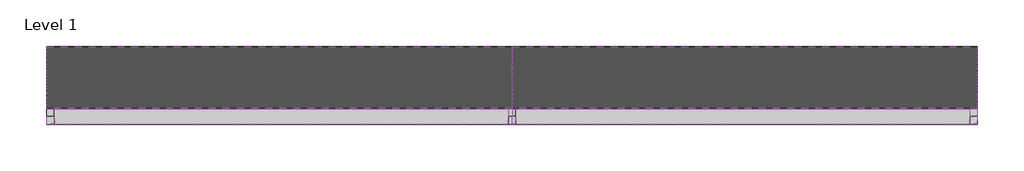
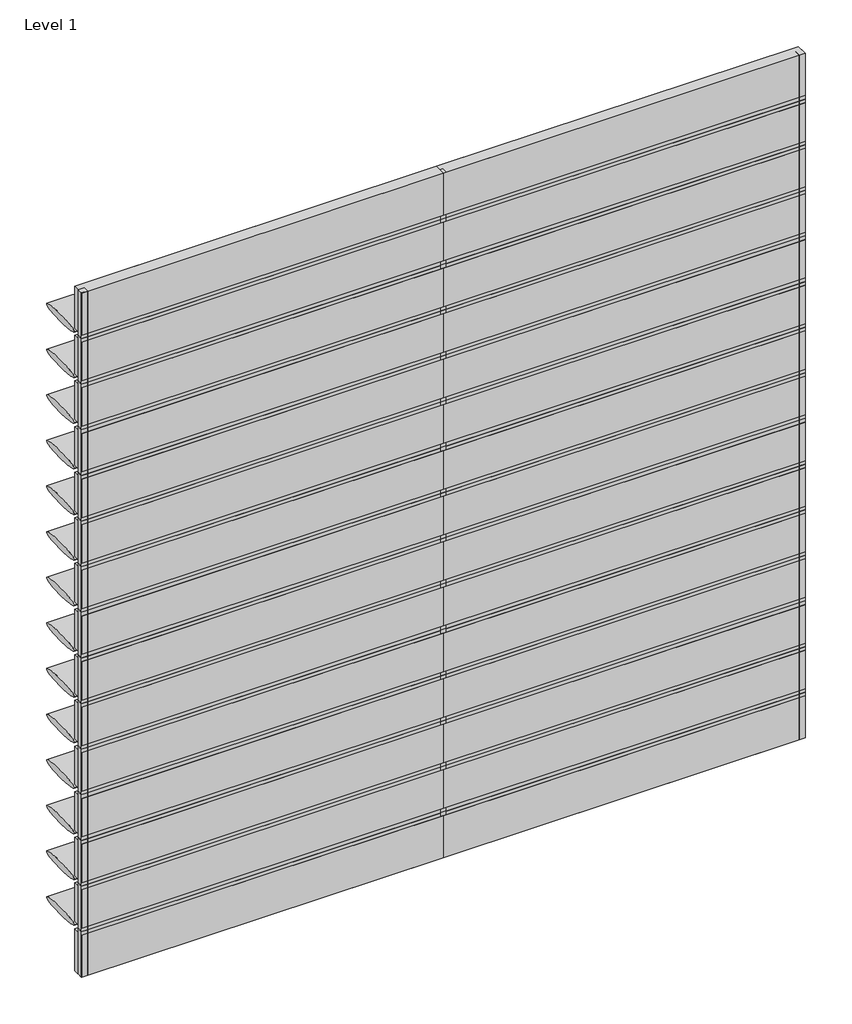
# One storey: 73 members, 60 plates.
"""IFC4 building model written with IfcOpenShell, lengths in millimetres."""

from ifc_helpers import new_model, si_unit, origin, place, context, project, spatial, transform, mapped, element, save
from components import rectangular_mullion_a010c3f5, rectangular_mullion_3c6e38bc, rectangular_mullion_05cc9e47, rectangular_mullion_4a4034a1, empty_system_panel_empty_1007a1ca, empty_system_panel_empty_1d5742cf, empty_system_panel_empty_0ce9900c

model = new_model("IFC4")

# Units and contexts
model_context = context("Model", 3, world=origin())
ifc_project = project(units=[si_unit("LENGTHUNIT", "METRE", prefix="MILLI")], contexts=[model_context])

# Site, building, storey
site = spatial("IfcSite", under=ifc_project)
building = spatial("IfcBuilding", under=site)
storey = spatial("IfcBuildingStorey", under=building, Name="Level 1", Elevation=0.0)

# Members
placement = place(None, origin())
rectangular_mullion_shape = rectangular_mullion_a010c3f5(model_context)
element("IfcMember", 1, ObjectType="Rectangular Mullion : RSen_21_CWM_blade - 400 ellips - 0°_gen_duco projects", at=placement, inside=storey, context=model_context, shape_type="MappedRepresentation", body=[
    mapped(rectangular_mullion_shape, transform((3000.0, 3000.0, 400.0), x_axis=(0.0, 0.0, 1.0), y_axis=(0.0, 1.0, 0.0), z_axis=(-1.0, 0.0, 0.0))),
])
element("IfcMember", 2, ObjectType="Rectangular Mullion : RSen_21_CWM_blade - 400 ellips - 0°_gen_duco projects", at=placement, inside=storey, context=model_context, shape_type="MappedRepresentation", body=[
    mapped(rectangular_mullion_shape, transform((3000.0, 3000.0, 800.0), x_axis=(0.0, 0.0, 1.0), y_axis=(0.0, 1.0, 0.0), z_axis=(-1.0, 0.0, 0.0))),
])
element("IfcMember", 3, ObjectType="Rectangular Mullion : RSen_21_CWM_blade - 400 ellips - 0°_gen_duco projects", at=placement, inside=storey, context=model_context, shape_type="MappedRepresentation", body=[
    mapped(rectangular_mullion_shape, transform((3000.0, 3000.0, 1200.0), x_axis=(0.0, 0.0, 1.0), y_axis=(0.0, 1.0, 0.0), z_axis=(-1.0, 0.0, 0.0))),
])
element("IfcMember", 4, ObjectType="Rectangular Mullion : RSen_21_CWM_blade - 400 ellips - 0°_gen_duco projects", at=placement, inside=storey, context=model_context, shape_type="MappedRepresentation", body=[
    mapped(rectangular_mullion_shape, transform((3000.0, 3000.0, 1600.0), x_axis=(0.0, 0.0, 1.0), y_axis=(0.0, 1.0, 0.0), z_axis=(-1.0, 0.0, 0.0))),
])
element("IfcMember", 5, ObjectType="Rectangular Mullion : RSen_21_CWM_blade - 400 ellips - 0°_gen_duco projects", at=placement, inside=storey, context=model_context, shape_type="MappedRepresentation", body=[
    mapped(rectangular_mullion_shape, transform((3000.0, 3000.0, 2000.0), x_axis=(0.0, 0.0, 1.0), y_axis=(0.0, 1.0, 0.0), z_axis=(-1.0, 0.0, 0.0))),
])
element("IfcMember", 6, ObjectType="Rectangular Mullion : RSen_21_CWM_blade - 400 ellips - 0°_gen_duco projects", at=placement, inside=storey, context=model_context, shape_type="MappedRepresentation", body=[
    mapped(rectangular_mullion_shape, transform((3000.0, 3000.0, 2400.0), x_axis=(0.0, 0.0, 1.0), y_axis=(0.0, 1.0, 0.0), z_axis=(-1.0, 0.0, 0.0))),
])
element("IfcMember", 7, ObjectType="Rectangular Mullion : RSen_21_CWM_blade - 400 ellips - 0°_gen_duco projects", at=placement, inside=storey, context=model_context, shape_type="MappedRepresentation", body=[
    mapped(rectangular_mullion_shape, transform((3000.0, 3000.0, 2800.0), x_axis=(0.0, 0.0, 1.0), y_axis=(0.0, 1.0, 0.0), z_axis=(-1.0, 0.0, 0.0))),
])
element("IfcMember", 8, ObjectType="Rectangular Mullion : RSen_21_CWM_blade - 400 ellips - 0°_gen_duco projects", at=placement, inside=storey, context=model_context, shape_type="MappedRepresentation", body=[
    mapped(rectangular_mullion_shape, transform((3000.0, 3000.0, 3200.0), x_axis=(0.0, 0.0, 1.0), y_axis=(0.0, 1.0, 0.0), z_axis=(-1.0, 0.0, 0.0))),
])
element("IfcMember", 9, ObjectType="Rectangular Mullion : RSen_21_CWM_blade - 400 ellips - 0°_gen_duco projects", at=placement, inside=storey, context=model_context, shape_type="MappedRepresentation", body=[
    mapped(rectangular_mullion_shape, transform((3000.0, 3000.0, 3600.0), x_axis=(0.0, 0.0, 1.0), y_axis=(0.0, 1.0, 0.0), z_axis=(-1.0, 0.0, 0.0))),
])
element("IfcMember", 10, ObjectType="Rectangular Mullion : RSen_21_CWM_blade - 400 ellips - 0°_gen_duco projects", at=placement, inside=storey, context=model_context, shape_type="MappedRepresentation", body=[
    mapped(rectangular_mullion_shape, transform((3000.0, 3000.0, 4000.0), x_axis=(0.0, 0.0, 1.0), y_axis=(0.0, 1.0, 0.0), z_axis=(-1.0, 0.0, 0.0))),
])
element("IfcMember", 11, ObjectType="Rectangular Mullion : RSen_21_CWM_blade - 400 ellips - 0°_gen_duco projects", at=placement, inside=storey, context=model_context, shape_type="MappedRepresentation", body=[
    mapped(rectangular_mullion_shape, transform((3000.0, 3000.0, 4400.0), x_axis=(0.0, 0.0, 1.0), y_axis=(0.0, 1.0, 0.0), z_axis=(-1.0, 0.0, 0.0))),
])
element("IfcMember", 12, ObjectType="Rectangular Mullion : RSen_21_CWM_blade - 400 ellips - 0°_gen_duco projects", at=placement, inside=storey, context=model_context, shape_type="MappedRepresentation", body=[
    mapped(rectangular_mullion_shape, transform((3000.0, 3000.0, 4800.0), x_axis=(0.0, 0.0, 1.0), y_axis=(0.0, 1.0, 0.0), z_axis=(-1.0, 0.0, 0.0))),
])
element("IfcMember", 13, ObjectType="Rectangular Mullion : RSen_21_CWM_blade - 400 ellips - 0°_gen_duco projects", at=placement, inside=storey, context=model_context, shape_type="MappedRepresentation", body=[
    mapped(rectangular_mullion_shape, transform((3000.0, 3000.0, 5200.0), x_axis=(0.0, 0.0, 1.0), y_axis=(0.0, 1.0, 0.0), z_axis=(-1.0, 0.0, 0.0))),
])
element("IfcMember", 14, ObjectType="Rectangular Mullion : RSen_21_CWM_blade - 400 ellips - 0°_gen_duco projects", at=placement, inside=storey, context=model_context, shape_type="MappedRepresentation", body=[
    mapped(rectangular_mullion_shape, transform((3000.0, 3000.0, 5600.0), x_axis=(0.0, 0.0, 1.0), y_axis=(0.0, 1.0, 0.0), z_axis=(-1.0, 0.0, 0.0))),
])
element("IfcMember", 15, ObjectType="Rectangular Mullion : RSen_21_CWM_blade - 400 ellips - 0°_gen_duco projects", at=placement, inside=storey, context=model_context, shape_type="MappedRepresentation", body=[
    mapped(rectangular_mullion_shape, transform((0.0, 3000.0, 400.0), x_axis=(0.0, 0.0, 1.0), y_axis=(0.0, 1.0, 0.0), z_axis=(-1.0, 0.0, 0.0))),
])
element("IfcMember", 16, ObjectType="Rectangular Mullion : RSen_21_CWM_blade - 400 ellips - 0°_gen_duco projects", at=placement, inside=storey, context=model_context, shape_type="MappedRepresentation", body=[
    mapped(rectangular_mullion_shape, transform((0.0, 3000.0, 800.0), x_axis=(0.0, 0.0, 1.0), y_axis=(0.0, 1.0, 0.0), z_axis=(-1.0, 0.0, 0.0))),
])
element("IfcMember", 17, ObjectType="Rectangular Mullion : RSen_21_CWM_blade - 400 ellips - 0°_gen_duco projects", at=placement, inside=storey, context=model_context, shape_type="MappedRepresentation", body=[
    mapped(rectangular_mullion_shape, transform((0.0, 3000.0, 1200.0), x_axis=(0.0, 0.0, 1.0), y_axis=(0.0, 1.0, 0.0), z_axis=(-1.0, 0.0, 0.0))),
])
element("IfcMember", 18, ObjectType="Rectangular Mullion : RSen_21_CWM_blade - 400 ellips - 0°_gen_duco projects", at=placement, inside=storey, context=model_context, shape_type="MappedRepresentation", body=[
    mapped(rectangular_mullion_shape, transform((0.0, 3000.0, 1600.0), x_axis=(0.0, 0.0, 1.0), y_axis=(0.0, 1.0, 0.0), z_axis=(-1.0, 0.0, 0.0))),
])
element("IfcMember", 19, ObjectType="Rectangular Mullion : RSen_21_CWM_blade - 400 ellips - 0°_gen_duco projects", at=placement, inside=storey, context=model_context, shape_type="MappedRepresentation", body=[
    mapped(rectangular_mullion_shape, transform((0.0, 3000.0, 2000.0), x_axis=(0.0, 0.0, 1.0), y_axis=(0.0, 1.0, 0.0), z_axis=(-1.0, 0.0, 0.0))),
])
element("IfcMember", 20, ObjectType="Rectangular Mullion : RSen_21_CWM_blade - 400 ellips - 0°_gen_duco projects", at=placement, inside=storey, context=model_context, shape_type="MappedRepresentation", body=[
    mapped(rectangular_mullion_shape, transform((0.0, 3000.0, 2400.0), x_axis=(0.0, 0.0, 1.0), y_axis=(0.0, 1.0, 0.0), z_axis=(-1.0, 0.0, 0.0))),
])
element("IfcMember", 21, ObjectType="Rectangular Mullion : RSen_21_CWM_blade - 400 ellips - 0°_gen_duco projects", at=placement, inside=storey, context=model_context, shape_type="MappedRepresentation", body=[
    mapped(rectangular_mullion_shape, transform((0.0, 3000.0, 2800.0), x_axis=(0.0, 0.0, 1.0), y_axis=(0.0, 1.0, 0.0), z_axis=(-1.0, 0.0, 0.0))),
])
element("IfcMember", 22, ObjectType="Rectangular Mullion : RSen_21_CWM_blade - 400 ellips - 0°_gen_duco projects", at=placement, inside=storey, context=model_context, shape_type="MappedRepresentation", body=[
    mapped(rectangular_mullion_shape, transform((0.0, 3000.0, 3200.0), x_axis=(0.0, 0.0, 1.0), y_axis=(0.0, 1.0, 0.0), z_axis=(-1.0, 0.0, 0.0))),
])
element("IfcMember", 23, ObjectType="Rectangular Mullion : RSen_21_CWM_blade - 400 ellips - 0°_gen_duco projects", at=placement, inside=storey, context=model_context, shape_type="MappedRepresentation", body=[
    mapped(rectangular_mullion_shape, transform((0.0, 3000.0, 3600.0), x_axis=(0.0, 0.0, 1.0), y_axis=(0.0, 1.0, 0.0), z_axis=(-1.0, 0.0, 0.0))),
])
element("IfcMember", 24, ObjectType="Rectangular Mullion : RSen_21_CWM_blade - 400 ellips - 0°_gen_duco projects", at=placement, inside=storey, context=model_context, shape_type="MappedRepresentation", body=[
    mapped(rectangular_mullion_shape, transform((0.0, 3000.0, 4000.0), x_axis=(0.0, 0.0, 1.0), y_axis=(0.0, 1.0, 0.0), z_axis=(-1.0, 0.0, 0.0))),
])
element("IfcMember", 25, ObjectType="Rectangular Mullion : RSen_21_CWM_blade - 400 ellips - 0°_gen_duco projects", at=placement, inside=storey, context=model_context, shape_type="MappedRepresentation", body=[
    mapped(rectangular_mullion_shape, transform((0.0, 3000.0, 4400.0), x_axis=(0.0, 0.0, 1.0), y_axis=(0.0, 1.0, 0.0), z_axis=(-1.0, 0.0, 0.0))),
])
element("IfcMember", 26, ObjectType="Rectangular Mullion : RSen_21_CWM_blade - 400 ellips - 0°_gen_duco projects", at=placement, inside=storey, context=model_context, shape_type="MappedRepresentation", body=[
    mapped(rectangular_mullion_shape, transform((0.0, 3000.0, 4800.0), x_axis=(0.0, 0.0, 1.0), y_axis=(0.0, 1.0, 0.0), z_axis=(-1.0, 0.0, 0.0))),
])
element("IfcMember", 27, ObjectType="Rectangular Mullion : RSen_21_CWM_blade - 400 ellips - 0°_gen_duco projects", at=placement, inside=storey, context=model_context, shape_type="MappedRepresentation", body=[
    mapped(rectangular_mullion_shape, transform((0.0, 3000.0, 5200.0), x_axis=(0.0, 0.0, 1.0), y_axis=(0.0, 1.0, 0.0), z_axis=(-1.0, 0.0, 0.0))),
])
element("IfcMember", 28, ObjectType="Rectangular Mullion : RSen_21_CWM_blade - 400 ellips - 0°_gen_duco projects", at=placement, inside=storey, context=model_context, shape_type="MappedRepresentation", body=[
    mapped(rectangular_mullion_shape, transform((0.0, 3000.0, 5600.0), x_axis=(0.0, 0.0, 1.0), y_axis=(0.0, 1.0, 0.0), z_axis=(-1.0, 0.0, 0.0))),
])
rectangular_mullion_2_shape = rectangular_mullion_3c6e38bc(model_context)
element("IfcMember", 29, ObjectType="Rectangular Mullion : RSen_21_CWM_support profile 50x50_gen_duco projects", at=placement, inside=storey, context=model_context, shape_type="MappedRepresentation", body=[
    mapped(rectangular_mullion_2_shape, transform((3000.0, 3000.0, 0.0), x_axis=(-1.0, 0.0, 0.0), y_axis=(0.0, 1.0, 0.0), z_axis=(0.0, 0.0, -1.0))),
])
element("IfcMember", 30, ObjectType="Rectangular Mullion : RSen_21_CWM_support profile 50x50_gen_duco projects", at=placement, inside=storey, context=model_context, shape_type="MappedRepresentation", body=[
    mapped(rectangular_mullion_2_shape, transform((3000.0, 3000.0, 400.0), x_axis=(-1.0, 0.0, 0.0), y_axis=(0.0, 1.0, 0.0), z_axis=(0.0, 0.0, -1.0))),
])
element("IfcMember", 31, ObjectType="Rectangular Mullion : RSen_21_CWM_support profile 50x50_gen_duco projects", at=placement, inside=storey, context=model_context, shape_type="MappedRepresentation", body=[
    mapped(rectangular_mullion_2_shape, transform((3000.0, 3000.0, 800.0), x_axis=(-1.0, 0.0, 0.0), y_axis=(0.0, 1.0, 0.0), z_axis=(0.0, 0.0, -1.0))),
])
element("IfcMember", 32, ObjectType="Rectangular Mullion : RSen_21_CWM_support profile 50x50_gen_duco projects", at=placement, inside=storey, context=model_context, shape_type="MappedRepresentation", body=[
    mapped(rectangular_mullion_2_shape, transform((3000.0, 3000.0, 1200.0), x_axis=(-1.0, 0.0, 0.0), y_axis=(0.0, 1.0, 0.0), z_axis=(0.0, 0.0, -1.0))),
])
element("IfcMember", 33, ObjectType="Rectangular Mullion : RSen_21_CWM_support profile 50x50_gen_duco projects", at=placement, inside=storey, context=model_context, shape_type="MappedRepresentation", body=[
    mapped(rectangular_mullion_2_shape, transform((3000.0, 3000.0, 1600.0), x_axis=(-1.0, 0.0, 0.0), y_axis=(0.0, 1.0, 0.0), z_axis=(0.0, 0.0, -1.0))),
])
element("IfcMember", 34, ObjectType="Rectangular Mullion : RSen_21_CWM_support profile 50x50_gen_duco projects", at=placement, inside=storey, context=model_context, shape_type="MappedRepresentation", body=[
    mapped(rectangular_mullion_2_shape, transform((3000.0, 3000.0, 2000.0), x_axis=(-1.0, 0.0, 0.0), y_axis=(0.0, 1.0, 0.0), z_axis=(0.0, 0.0, -1.0))),
])
element("IfcMember", 35, ObjectType="Rectangular Mullion : RSen_21_CWM_support profile 50x50_gen_duco projects", at=placement, inside=storey, context=model_context, shape_type="MappedRepresentation", body=[
    mapped(rectangular_mullion_2_shape, transform((3000.0, 3000.0, 2400.0), x_axis=(-1.0, 0.0, 0.0), y_axis=(0.0, 1.0, 0.0), z_axis=(0.0, 0.0, -1.0))),
])
element("IfcMember", 36, ObjectType="Rectangular Mullion : RSen_21_CWM_support profile 50x50_gen_duco projects", at=placement, inside=storey, context=model_context, shape_type="MappedRepresentation", body=[
    mapped(rectangular_mullion_2_shape, transform((3000.0, 3000.0, 2800.0), x_axis=(-1.0, 0.0, 0.0), y_axis=(0.0, 1.0, 0.0), z_axis=(0.0, 0.0, -1.0))),
])
element("IfcMember", 37, ObjectType="Rectangular Mullion : RSen_21_CWM_support profile 50x50_gen_duco projects", at=placement, inside=storey, context=model_context, shape_type="MappedRepresentation", body=[
    mapped(rectangular_mullion_2_shape, transform((3000.0, 3000.0, 3200.0), x_axis=(-1.0, 0.0, 0.0), y_axis=(0.0, 1.0, 0.0), z_axis=(0.0, 0.0, -1.0))),
])
element("IfcMember", 38, ObjectType="Rectangular Mullion : RSen_21_CWM_support profile 50x50_gen_duco projects", at=placement, inside=storey, context=model_context, shape_type="MappedRepresentation", body=[
    mapped(rectangular_mullion_2_shape, transform((3000.0, 3000.0, 3600.0), x_axis=(-1.0, 0.0, 0.0), y_axis=(0.0, 1.0, 0.0), z_axis=(0.0, 0.0, -1.0))),
])
element("IfcMember", 39, ObjectType="Rectangular Mullion : RSen_21_CWM_support profile 50x50_gen_duco projects", at=placement, inside=storey, context=model_context, shape_type="MappedRepresentation", body=[
    mapped(rectangular_mullion_2_shape, transform((3000.0, 3000.0, 4000.0), x_axis=(-1.0, 0.0, 0.0), y_axis=(0.0, 1.0, 0.0), z_axis=(0.0, 0.0, -1.0))),
])
element("IfcMember", 40, ObjectType="Rectangular Mullion : RSen_21_CWM_support profile 50x50_gen_duco projects", at=placement, inside=storey, context=model_context, shape_type="MappedRepresentation", body=[
    mapped(rectangular_mullion_2_shape, transform((3000.0, 3000.0, 4400.0), x_axis=(-1.0, 0.0, 0.0), y_axis=(0.0, 1.0, 0.0), z_axis=(0.0, 0.0, -1.0))),
])
element("IfcMember", 41, ObjectType="Rectangular Mullion : RSen_21_CWM_support profile 50x50_gen_duco projects", at=placement, inside=storey, context=model_context, shape_type="MappedRepresentation", body=[
    mapped(rectangular_mullion_2_shape, transform((3000.0, 3000.0, 4800.0), x_axis=(-1.0, 0.0, 0.0), y_axis=(0.0, 1.0, 0.0), z_axis=(0.0, 0.0, -1.0))),
])
element("IfcMember", 42, ObjectType="Rectangular Mullion : RSen_21_CWM_support profile 50x50_gen_duco projects", at=placement, inside=storey, context=model_context, shape_type="MappedRepresentation", body=[
    mapped(rectangular_mullion_2_shape, transform((3000.0, 3000.0, 5200.0), x_axis=(-1.0, 0.0, 0.0), y_axis=(0.0, 1.0, 0.0), z_axis=(0.0, 0.0, -1.0))),
])
element("IfcMember", 43, ObjectType="Rectangular Mullion : RSen_21_CWM_support profile 50x50_gen_duco projects", at=placement, inside=storey, context=model_context, shape_type="MappedRepresentation", body=[
    mapped(rectangular_mullion_2_shape, transform((3000.0, 3000.0, 5600.0), x_axis=(-1.0, 0.0, 0.0), y_axis=(0.0, 1.0, 0.0), z_axis=(0.0, 0.0, -1.0))),
])
rectangular_mullion_3_shape = rectangular_mullion_05cc9e47(model_context)
element("IfcMember", 44, ObjectType="Rectangular Mullion : RSen_21_CWM_support profile 50x50 - left_gen_duco projects", at=placement, inside=storey, context=model_context, shape_type="MappedRepresentation", body=[
    mapped(rectangular_mullion_3_shape, transform((0.0, 3000.0, 0.0), x_axis=(-1.0, 0.0, 0.0), y_axis=(0.0, 1.0, 0.0), z_axis=(0.0, 0.0, -1.0))),
])
rectangular_mullion_4_shape = rectangular_mullion_4a4034a1(model_context)
element("IfcMember", 45, ObjectType="Rectangular Mullion : RSen_21_CWM_support profile 50x50 - right_gen_duco projects", at=placement, inside=storey, context=model_context, shape_type="MappedRepresentation", body=[
    mapped(rectangular_mullion_4_shape, transform((6000.0, 3000.0, 6000.0), x_axis=(1.0, 0.0, 0.0), y_axis=(0.0, 1.0, 0.0), z_axis=(0.0, 0.0, 1.0))),
])
element("IfcMember", 46, ObjectType="Rectangular Mullion : RSen_21_CWM_support profile 50x50 - left_gen_duco projects", at=placement, inside=storey, context=model_context, shape_type="MappedRepresentation", body=[
    mapped(rectangular_mullion_3_shape, transform((0.0, 3000.0, 400.0), x_axis=(-1.0, 0.0, 0.0), y_axis=(0.0, 1.0, 0.0), z_axis=(0.0, 0.0, -1.0))),
])
element("IfcMember", 47, ObjectType="Rectangular Mullion : RSen_21_CWM_support profile 50x50 - left_gen_duco projects", at=placement, inside=storey, context=model_context, shape_type="MappedRepresentation", body=[
    mapped(rectangular_mullion_3_shape, transform((0.0, 3000.0, 800.0), x_axis=(-1.0, 0.0, 0.0), y_axis=(0.0, 1.0, 0.0), z_axis=(0.0, 0.0, -1.0))),
])
element("IfcMember", 48, ObjectType="Rectangular Mullion : RSen_21_CWM_support profile 50x50 - left_gen_duco projects", at=placement, inside=storey, context=model_context, shape_type="MappedRepresentation", body=[
    mapped(rectangular_mullion_3_shape, transform((0.0, 3000.0, 1200.0), x_axis=(-1.0, 0.0, 0.0), y_axis=(0.0, 1.0, 0.0), z_axis=(0.0, 0.0, -1.0))),
])
element("IfcMember", 49, ObjectType="Rectangular Mullion : RSen_21_CWM_support profile 50x50 - left_gen_duco projects", at=placement, inside=storey, context=model_context, shape_type="MappedRepresentation", body=[
    mapped(rectangular_mullion_3_shape, transform((0.0, 3000.0, 1600.0), x_axis=(-1.0, 0.0, 0.0), y_axis=(0.0, 1.0, 0.0), z_axis=(0.0, 0.0, -1.0))),
])
element("IfcMember", 50, ObjectType="Rectangular Mullion : RSen_21_CWM_support profile 50x50 - left_gen_duco projects", at=placement, inside=storey, context=model_context, shape_type="MappedRepresentation", body=[
    mapped(rectangular_mullion_3_shape, transform((0.0, 3000.0, 2000.0), x_axis=(-1.0, 0.0, 0.0), y_axis=(0.0, 1.0, 0.0), z_axis=(0.0, 0.0, -1.0))),
])
element("IfcMember", 51, ObjectType="Rectangular Mullion : RSen_21_CWM_support profile 50x50 - left_gen_duco projects", at=placement, inside=storey, context=model_context, shape_type="MappedRepresentation", body=[
    mapped(rectangular_mullion_3_shape, transform((0.0, 3000.0, 2400.0), x_axis=(-1.0, 0.0, 0.0), y_axis=(0.0, 1.0, 0.0), z_axis=(0.0, 0.0, -1.0))),
])
element("IfcMember", 52, ObjectType="Rectangular Mullion : RSen_21_CWM_support profile 50x50 - left_gen_duco projects", at=placement, inside=storey, context=model_context, shape_type="MappedRepresentation", body=[
    mapped(rectangular_mullion_3_shape, transform((0.0, 3000.0, 2800.0), x_axis=(-1.0, 0.0, 0.0), y_axis=(0.0, 1.0, 0.0), z_axis=(0.0, 0.0, -1.0))),
])
element("IfcMember", 53, ObjectType="Rectangular Mullion : RSen_21_CWM_support profile 50x50 - left_gen_duco projects", at=placement, inside=storey, context=model_context, shape_type="MappedRepresentation", body=[
    mapped(rectangular_mullion_3_shape, transform((0.0, 3000.0, 3200.0), x_axis=(-1.0, 0.0, 0.0), y_axis=(0.0, 1.0, 0.0), z_axis=(0.0, 0.0, -1.0))),
])
element("IfcMember", 54, ObjectType="Rectangular Mullion : RSen_21_CWM_support profile 50x50 - left_gen_duco projects", at=placement, inside=storey, context=model_context, shape_type="MappedRepresentation", body=[
    mapped(rectangular_mullion_3_shape, transform((0.0, 3000.0, 3600.0), x_axis=(-1.0, 0.0, 0.0), y_axis=(0.0, 1.0, 0.0), z_axis=(0.0, 0.0, -1.0))),
])
element("IfcMember", 55, ObjectType="Rectangular Mullion : RSen_21_CWM_support profile 50x50 - left_gen_duco projects", at=placement, inside=storey, context=model_context, shape_type="MappedRepresentation", body=[
    mapped(rectangular_mullion_3_shape, transform((0.0, 3000.0, 4000.0), x_axis=(-1.0, 0.0, 0.0), y_axis=(0.0, 1.0, 0.0), z_axis=(0.0, 0.0, -1.0))),
])
element("IfcMember", 56, ObjectType="Rectangular Mullion : RSen_21_CWM_support profile 50x50 - left_gen_duco projects", at=placement, inside=storey, context=model_context, shape_type="MappedRepresentation", body=[
    mapped(rectangular_mullion_3_shape, transform((0.0, 3000.0, 4400.0), x_axis=(-1.0, 0.0, 0.0), y_axis=(0.0, 1.0, 0.0), z_axis=(0.0, 0.0, -1.0))),
])
element("IfcMember", 57, ObjectType="Rectangular Mullion : RSen_21_CWM_support profile 50x50 - left_gen_duco projects", at=placement, inside=storey, context=model_context, shape_type="MappedRepresentation", body=[
    mapped(rectangular_mullion_3_shape, transform((0.0, 3000.0, 4800.0), x_axis=(-1.0, 0.0, 0.0), y_axis=(0.0, 1.0, 0.0), z_axis=(0.0, 0.0, -1.0))),
])
element("IfcMember", 58, ObjectType="Rectangular Mullion : RSen_21_CWM_support profile 50x50 - left_gen_duco projects", at=placement, inside=storey, context=model_context, shape_type="MappedRepresentation", body=[
    mapped(rectangular_mullion_3_shape, transform((0.0, 3000.0, 5200.0), x_axis=(-1.0, 0.0, 0.0), y_axis=(0.0, 1.0, 0.0), z_axis=(0.0, 0.0, -1.0))),
])
element("IfcMember", 59, ObjectType="Rectangular Mullion : RSen_21_CWM_support profile 50x50 - left_gen_duco projects", at=placement, inside=storey, context=model_context, shape_type="MappedRepresentation", body=[
    mapped(rectangular_mullion_3_shape, transform((0.0, 3000.0, 5600.0), x_axis=(-1.0, 0.0, 0.0), y_axis=(0.0, 1.0, 0.0), z_axis=(0.0, 0.0, -1.0))),
])
element("IfcMember", 60, ObjectType="Rectangular Mullion : RSen_21_CWM_support profile 50x50 - right_gen_duco projects", at=placement, inside=storey, context=model_context, shape_type="MappedRepresentation", body=[
    mapped(rectangular_mullion_4_shape, transform((6000.0, 3000.0, 400.0), x_axis=(1.0, 0.0, 0.0), y_axis=(0.0, 1.0, 0.0), z_axis=(0.0, 0.0, 1.0))),
])
element("IfcMember", 61, ObjectType="Rectangular Mullion : RSen_21_CWM_support profile 50x50 - right_gen_duco projects", at=placement, inside=storey, context=model_context, shape_type="MappedRepresentation", body=[
    mapped(rectangular_mullion_4_shape, transform((6000.0, 3000.0, 800.0), x_axis=(1.0, 0.0, 0.0), y_axis=(0.0, 1.0, 0.0), z_axis=(0.0, 0.0, 1.0))),
])
element("IfcMember", 62, ObjectType="Rectangular Mullion : RSen_21_CWM_support profile 50x50 - right_gen_duco projects", at=placement, inside=storey, context=model_context, shape_type="MappedRepresentation", body=[
    mapped(rectangular_mullion_4_shape, transform((6000.0, 3000.0, 1200.0), x_axis=(1.0, 0.0, 0.0), y_axis=(0.0, 1.0, 0.0), z_axis=(0.0, 0.0, 1.0))),
])
element("IfcMember", 63, ObjectType="Rectangular Mullion : RSen_21_CWM_support profile 50x50 - right_gen_duco projects", at=placement, inside=storey, context=model_context, shape_type="MappedRepresentation", body=[
    mapped(rectangular_mullion_4_shape, transform((6000.0, 3000.0, 1600.0), x_axis=(1.0, 0.0, 0.0), y_axis=(0.0, 1.0, 0.0), z_axis=(0.0, 0.0, 1.0))),
])
element("IfcMember", 64, ObjectType="Rectangular Mullion : RSen_21_CWM_support profile 50x50 - right_gen_duco projects", at=placement, inside=storey, context=model_context, shape_type="MappedRepresentation", body=[
    mapped(rectangular_mullion_4_shape, transform((6000.0, 3000.0, 2000.0), x_axis=(1.0, 0.0, 0.0), y_axis=(0.0, 1.0, 0.0), z_axis=(0.0, 0.0, 1.0))),
])
element("IfcMember", 65, ObjectType="Rectangular Mullion : RSen_21_CWM_support profile 50x50 - right_gen_duco projects", at=placement, inside=storey, context=model_context, shape_type="MappedRepresentation", body=[
    mapped(rectangular_mullion_4_shape, transform((6000.0, 3000.0, 2400.0), x_axis=(1.0, 0.0, 0.0), y_axis=(0.0, 1.0, 0.0), z_axis=(0.0, 0.0, 1.0))),
])
element("IfcMember", 66, ObjectType="Rectangular Mullion : RSen_21_CWM_support profile 50x50 - right_gen_duco projects", at=placement, inside=storey, context=model_context, shape_type="MappedRepresentation", body=[
    mapped(rectangular_mullion_4_shape, transform((6000.0, 3000.0, 2800.0), x_axis=(1.0, 0.0, 0.0), y_axis=(0.0, 1.0, 0.0), z_axis=(0.0, 0.0, 1.0))),
])
element("IfcMember", 67, ObjectType="Rectangular Mullion : RSen_21_CWM_support profile 50x50 - right_gen_duco projects", at=placement, inside=storey, context=model_context, shape_type="MappedRepresentation", body=[
    mapped(rectangular_mullion_4_shape, transform((6000.0, 3000.0, 3200.0), x_axis=(1.0, 0.0, 0.0), y_axis=(0.0, 1.0, 0.0), z_axis=(0.0, 0.0, 1.0))),
])
element("IfcMember", 68, ObjectType="Rectangular Mullion : RSen_21_CWM_support profile 50x50 - right_gen_duco projects", at=placement, inside=storey, context=model_context, shape_type="MappedRepresentation", body=[
    mapped(rectangular_mullion_4_shape, transform((6000.0, 3000.0, 3600.0), x_axis=(1.0, 0.0, 0.0), y_axis=(0.0, 1.0, 0.0), z_axis=(0.0, 0.0, 1.0))),
])
element("IfcMember", 69, ObjectType="Rectangular Mullion : RSen_21_CWM_support profile 50x50 - right_gen_duco projects", at=placement, inside=storey, context=model_context, shape_type="MappedRepresentation", body=[
    mapped(rectangular_mullion_4_shape, transform((6000.0, 3000.0, 4000.0), x_axis=(1.0, 0.0, 0.0), y_axis=(0.0, 1.0, 0.0), z_axis=(0.0, 0.0, 1.0))),
])
element("IfcMember", 70, ObjectType="Rectangular Mullion : RSen_21_CWM_support profile 50x50 - right_gen_duco projects", at=placement, inside=storey, context=model_context, shape_type="MappedRepresentation", body=[
    mapped(rectangular_mullion_4_shape, transform((6000.0, 3000.0, 4400.0), x_axis=(1.0, 0.0, 0.0), y_axis=(0.0, 1.0, 0.0), z_axis=(0.0, 0.0, 1.0))),
])
element("IfcMember", 71, ObjectType="Rectangular Mullion : RSen_21_CWM_support profile 50x50 - right_gen_duco projects", at=placement, inside=storey, context=model_context, shape_type="MappedRepresentation", body=[
    mapped(rectangular_mullion_4_shape, transform((6000.0, 3000.0, 4800.0), x_axis=(1.0, 0.0, 0.0), y_axis=(0.0, 1.0, 0.0), z_axis=(0.0, 0.0, 1.0))),
])
element("IfcMember", 72, ObjectType="Rectangular Mullion : RSen_21_CWM_support profile 50x50 - right_gen_duco projects", at=placement, inside=storey, context=model_context, shape_type="MappedRepresentation", body=[
    mapped(rectangular_mullion_4_shape, transform((6000.0, 3000.0, 5200.0), x_axis=(1.0, 0.0, 0.0), y_axis=(0.0, 1.0, 0.0), z_axis=(0.0, 0.0, 1.0))),
])
element("IfcMember", 73, ObjectType="Rectangular Mullion : RSen_21_CWM_support profile 50x50 - right_gen_duco projects", at=placement, inside=storey, context=model_context, shape_type="MappedRepresentation", body=[
    mapped(rectangular_mullion_4_shape, transform((6000.0, 3000.0, 5600.0), x_axis=(1.0, 0.0, 0.0), y_axis=(0.0, 1.0, 0.0), z_axis=(0.0, 0.0, 1.0))),
])

# Plates
empty_system_panel_empty_shape = empty_system_panel_empty_1007a1ca(model_context)
element("IfcPlate", 74, ObjectType="Empty System Panel : Empty", at=placement, inside=storey, context=model_context, shape_type="MappedRepresentation", body=[
    mapped(empty_system_panel_empty_shape, transform((4500.0, 3000.0, 0.0), x_axis=(-1.0, 0.0, 0.0), y_axis=(0.0, -1.0, 0.0), z_axis=(0.0, 0.0, 1.0))),
])
element("IfcPlate", 75, ObjectType="Empty System Panel : Empty", at=placement, inside=storey, context=model_context, shape_type="MappedRepresentation", body=[
    mapped(empty_system_panel_empty_shape, transform((1500.0, 3000.0, 0.0), x_axis=(-1.0, 0.0, 0.0), y_axis=(0.0, -1.0, 0.0), z_axis=(0.0, 0.0, 1.0))),
])
element("IfcPlate", 76, ObjectType="Empty System Panel : Empty", at=placement, inside=storey, context=model_context, shape_type="MappedRepresentation", body=[
    mapped(empty_system_panel_empty_shape, transform((4500.0, 3000.0, 5631.5), x_axis=(-1.0, 0.0, 0.0), y_axis=(0.0, -1.0, 0.0), z_axis=(0.0, 0.0, 1.0))),
])
element("IfcPlate", 77, ObjectType="Empty System Panel : Empty", at=placement, inside=storey, context=model_context, shape_type="MappedRepresentation", body=[
    mapped(empty_system_panel_empty_shape, transform((1500.0, 3000.0, 5631.5), x_axis=(-1.0, 0.0, 0.0), y_axis=(0.0, -1.0, 0.0), z_axis=(0.0, 0.0, 1.0))),
])
empty_system_panel_empty_2_shape = empty_system_panel_empty_1d5742cf(model_context)
element("IfcPlate", 78, ObjectType="Empty System Panel : Empty", at=placement, inside=storey, context=model_context, shape_type="MappedRepresentation", body=[
    mapped(empty_system_panel_empty_2_shape, transform((4500.0, 3000.0, 431.5), x_axis=(-1.0, 0.0, 0.0), y_axis=(0.0, -1.0, 0.0), z_axis=(0.0, 0.0, 1.0))),
])
element("IfcPlate", 79, ObjectType="Empty System Panel : Empty", at=placement, inside=storey, context=model_context, shape_type="MappedRepresentation", body=[
    mapped(empty_system_panel_empty_2_shape, transform((1500.0, 3000.0, 431.5), x_axis=(-1.0, 0.0, 0.0), y_axis=(0.0, -1.0, 0.0), z_axis=(0.0, 0.0, 1.0))),
])
element("IfcPlate", 80, ObjectType="Empty System Panel : Empty", at=placement, inside=storey, context=model_context, shape_type="MappedRepresentation", body=[
    mapped(empty_system_panel_empty_2_shape, transform((4500.0, 3000.0, 831.5), x_axis=(-1.0, 0.0, 0.0), y_axis=(0.0, -1.0, 0.0), z_axis=(0.0, 0.0, 1.0))),
])
element("IfcPlate", 81, ObjectType="Empty System Panel : Empty", at=placement, inside=storey, context=model_context, shape_type="MappedRepresentation", body=[
    mapped(empty_system_panel_empty_2_shape, transform((1500.0, 3000.0, 831.5), x_axis=(-1.0, 0.0, 0.0), y_axis=(0.0, -1.0, 0.0), z_axis=(0.0, 0.0, 1.0))),
])
element("IfcPlate", 82, ObjectType="Empty System Panel : Empty", at=placement, inside=storey, context=model_context, shape_type="MappedRepresentation", body=[
    mapped(empty_system_panel_empty_2_shape, transform((4500.0, 3000.0, 1231.5), x_axis=(-1.0, 0.0, 0.0), y_axis=(0.0, -1.0, 0.0), z_axis=(0.0, 0.0, 1.0))),
])
element("IfcPlate", 83, ObjectType="Empty System Panel : Empty", at=placement, inside=storey, context=model_context, shape_type="MappedRepresentation", body=[
    mapped(empty_system_panel_empty_2_shape, transform((1500.0, 3000.0, 1231.5), x_axis=(-1.0, 0.0, 0.0), y_axis=(0.0, -1.0, 0.0), z_axis=(0.0, 0.0, 1.0))),
])
element("IfcPlate", 84, ObjectType="Empty System Panel : Empty", at=placement, inside=storey, context=model_context, shape_type="MappedRepresentation", body=[
    mapped(empty_system_panel_empty_2_shape, transform((4500.0, 3000.0, 1631.5), x_axis=(-1.0, 0.0, 0.0), y_axis=(0.0, -1.0, 0.0), z_axis=(0.0, 0.0, 1.0))),
])
element("IfcPlate", 85, ObjectType="Empty System Panel : Empty", at=placement, inside=storey, context=model_context, shape_type="MappedRepresentation", body=[
    mapped(empty_system_panel_empty_2_shape, transform((1500.0, 3000.0, 1631.5), x_axis=(-1.0, 0.0, 0.0), y_axis=(0.0, -1.0, 0.0), z_axis=(0.0, 0.0, 1.0))),
])
element("IfcPlate", 86, ObjectType="Empty System Panel : Empty", at=placement, inside=storey, context=model_context, shape_type="MappedRepresentation", body=[
    mapped(empty_system_panel_empty_2_shape, transform((4500.0, 3000.0, 2031.5), x_axis=(-1.0, 0.0, 0.0), y_axis=(0.0, -1.0, 0.0), z_axis=(0.0, 0.0, 1.0))),
])
element("IfcPlate", 87, ObjectType="Empty System Panel : Empty", at=placement, inside=storey, context=model_context, shape_type="MappedRepresentation", body=[
    mapped(empty_system_panel_empty_2_shape, transform((1500.0, 3000.0, 2031.5), x_axis=(-1.0, 0.0, 0.0), y_axis=(0.0, -1.0, 0.0), z_axis=(0.0, 0.0, 1.0))),
])
element("IfcPlate", 88, ObjectType="Empty System Panel : Empty", at=placement, inside=storey, context=model_context, shape_type="MappedRepresentation", body=[
    mapped(empty_system_panel_empty_2_shape, transform((4500.0, 3000.0, 2431.5), x_axis=(-1.0, 0.0, 0.0), y_axis=(0.0, -1.0, 0.0), z_axis=(0.0, 0.0, 1.0))),
])
element("IfcPlate", 89, ObjectType="Empty System Panel : Empty", at=placement, inside=storey, context=model_context, shape_type="MappedRepresentation", body=[
    mapped(empty_system_panel_empty_2_shape, transform((1500.0, 3000.0, 2431.5), x_axis=(-1.0, 0.0, 0.0), y_axis=(0.0, -1.0, 0.0), z_axis=(0.0, 0.0, 1.0))),
])
element("IfcPlate", 90, ObjectType="Empty System Panel : Empty", at=placement, inside=storey, context=model_context, shape_type="MappedRepresentation", body=[
    mapped(empty_system_panel_empty_2_shape, transform((4500.0, 3000.0, 2831.5), x_axis=(-1.0, 0.0, 0.0), y_axis=(0.0, -1.0, 0.0), z_axis=(0.0, 0.0, 1.0))),
])
element("IfcPlate", 91, ObjectType="Empty System Panel : Empty", at=placement, inside=storey, context=model_context, shape_type="MappedRepresentation", body=[
    mapped(empty_system_panel_empty_2_shape, transform((1500.0, 3000.0, 2831.5), x_axis=(-1.0, 0.0, 0.0), y_axis=(0.0, -1.0, 0.0), z_axis=(0.0, 0.0, 1.0))),
])
element("IfcPlate", 92, ObjectType="Empty System Panel : Empty", at=placement, inside=storey, context=model_context, shape_type="MappedRepresentation", body=[
    mapped(empty_system_panel_empty_2_shape, transform((4500.0, 3000.0, 3231.5), x_axis=(-1.0, 0.0, 0.0), y_axis=(0.0, -1.0, 0.0), z_axis=(0.0, 0.0, 1.0))),
])
element("IfcPlate", 93, ObjectType="Empty System Panel : Empty", at=placement, inside=storey, context=model_context, shape_type="MappedRepresentation", body=[
    mapped(empty_system_panel_empty_2_shape, transform((1500.0, 3000.0, 3231.5), x_axis=(-1.0, 0.0, 0.0), y_axis=(0.0, -1.0, 0.0), z_axis=(0.0, 0.0, 1.0))),
])
element("IfcPlate", 94, ObjectType="Empty System Panel : Empty", at=placement, inside=storey, context=model_context, shape_type="MappedRepresentation", body=[
    mapped(empty_system_panel_empty_2_shape, transform((4500.0, 3000.0, 3631.5), x_axis=(-1.0, 0.0, 0.0), y_axis=(0.0, -1.0, 0.0), z_axis=(0.0, 0.0, 1.0))),
])
element("IfcPlate", 95, ObjectType="Empty System Panel : Empty", at=placement, inside=storey, context=model_context, shape_type="MappedRepresentation", body=[
    mapped(empty_system_panel_empty_2_shape, transform((1500.0, 3000.0, 3631.5), x_axis=(-1.0, 0.0, 0.0), y_axis=(0.0, -1.0, 0.0), z_axis=(0.0, 0.0, 1.0))),
])
element("IfcPlate", 96, ObjectType="Empty System Panel : Empty", at=placement, inside=storey, context=model_context, shape_type="MappedRepresentation", body=[
    mapped(empty_system_panel_empty_2_shape, transform((4500.0, 3000.0, 4031.5), x_axis=(-1.0, 0.0, 0.0), y_axis=(0.0, -1.0, 0.0), z_axis=(0.0, 0.0, 1.0))),
])
element("IfcPlate", 97, ObjectType="Empty System Panel : Empty", at=placement, inside=storey, context=model_context, shape_type="MappedRepresentation", body=[
    mapped(empty_system_panel_empty_2_shape, transform((1500.0, 3000.0, 4031.5), x_axis=(-1.0, 0.0, 0.0), y_axis=(0.0, -1.0, 0.0), z_axis=(0.0, 0.0, 1.0))),
])
element("IfcPlate", 98, ObjectType="Empty System Panel : Empty", at=placement, inside=storey, context=model_context, shape_type="MappedRepresentation", body=[
    mapped(empty_system_panel_empty_2_shape, transform((4500.0, 3000.0, 4431.5), x_axis=(-1.0, 0.0, 0.0), y_axis=(0.0, -1.0, 0.0), z_axis=(0.0, 0.0, 1.0))),
])
element("IfcPlate", 99, ObjectType="Empty System Panel : Empty", at=placement, inside=storey, context=model_context, shape_type="MappedRepresentation", body=[
    mapped(empty_system_panel_empty_2_shape, transform((1500.0, 3000.0, 4431.5), x_axis=(-1.0, 0.0, 0.0), y_axis=(0.0, -1.0, 0.0), z_axis=(0.0, 0.0, 1.0))),
])
element("IfcPlate", 100, ObjectType="Empty System Panel : Empty", at=placement, inside=storey, context=model_context, shape_type="MappedRepresentation", body=[
    mapped(empty_system_panel_empty_2_shape, transform((4500.0, 3000.0, 4831.5), x_axis=(-1.0, 0.0, 0.0), y_axis=(0.0, -1.0, 0.0), z_axis=(0.0, 0.0, 1.0))),
])
element("IfcPlate", 101, ObjectType="Empty System Panel : Empty", at=placement, inside=storey, context=model_context, shape_type="MappedRepresentation", body=[
    mapped(empty_system_panel_empty_2_shape, transform((1500.0, 3000.0, 4831.5), x_axis=(-1.0, 0.0, 0.0), y_axis=(0.0, -1.0, 0.0), z_axis=(0.0, 0.0, 1.0))),
])
element("IfcPlate", 102, ObjectType="Empty System Panel : Empty", at=placement, inside=storey, context=model_context, shape_type="MappedRepresentation", body=[
    mapped(empty_system_panel_empty_2_shape, transform((4500.0, 3000.0, 5231.5), x_axis=(-1.0, 0.0, 0.0), y_axis=(0.0, -1.0, 0.0), z_axis=(0.0, 0.0, 1.0))),
])
element("IfcPlate", 103, ObjectType="Empty System Panel : Empty", at=placement, inside=storey, context=model_context, shape_type="MappedRepresentation", body=[
    mapped(empty_system_panel_empty_2_shape, transform((1500.0, 3000.0, 5231.5), x_axis=(-1.0, 0.0, 0.0), y_axis=(0.0, -1.0, 0.0), z_axis=(0.0, 0.0, 1.0))),
])
empty_system_panel_empty_3_shape = empty_system_panel_empty_0ce9900c(model_context)
element("IfcPlate", 104, ObjectType="Empty System Panel : Empty", at=placement, inside=storey, context=model_context, shape_type="MappedRepresentation", body=[
    mapped(empty_system_panel_empty_3_shape, transform((4487.5, 3000.0, 0.0), x_axis=(-1.0, 0.0, 0.0), y_axis=(0.0, -1.0, 0.0), z_axis=(0.0, 0.0, 1.0))),
])
element("IfcPlate", 105, ObjectType="Empty System Panel : Empty", at=placement, inside=storey, context=model_context, shape_type="MappedRepresentation", body=[
    mapped(empty_system_panel_empty_3_shape, transform((1512.5, 3000.0, 0.0), x_axis=(-1.0, 0.0, 0.0), y_axis=(0.0, -1.0, 0.0), z_axis=(0.0, 0.0, 1.0))),
])
element("IfcPlate", 106, ObjectType="Empty System Panel : Empty", at=placement, inside=storey, context=model_context, shape_type="MappedRepresentation", body=[
    mapped(empty_system_panel_empty_3_shape, transform((4487.5, 3000.0, 400.0), x_axis=(-1.0, 0.0, 0.0), y_axis=(0.0, -1.0, 0.0), z_axis=(0.0, 0.0, 1.0))),
])
element("IfcPlate", 107, ObjectType="Empty System Panel : Empty", at=placement, inside=storey, context=model_context, shape_type="MappedRepresentation", body=[
    mapped(empty_system_panel_empty_3_shape, transform((1512.5, 3000.0, 400.0), x_axis=(-1.0, 0.0, 0.0), y_axis=(0.0, -1.0, 0.0), z_axis=(0.0, 0.0, 1.0))),
])
element("IfcPlate", 108, ObjectType="Empty System Panel : Empty", at=placement, inside=storey, context=model_context, shape_type="MappedRepresentation", body=[
    mapped(empty_system_panel_empty_3_shape, transform((4487.5, 3000.0, 800.0), x_axis=(-1.0, 0.0, 0.0), y_axis=(0.0, -1.0, 0.0), z_axis=(0.0, 0.0, 1.0))),
])
element("IfcPlate", 109, ObjectType="Empty System Panel : Empty", at=placement, inside=storey, context=model_context, shape_type="MappedRepresentation", body=[
    mapped(empty_system_panel_empty_3_shape, transform((1512.5, 3000.0, 800.0), x_axis=(-1.0, 0.0, 0.0), y_axis=(0.0, -1.0, 0.0), z_axis=(0.0, 0.0, 1.0))),
])
element("IfcPlate", 110, ObjectType="Empty System Panel : Empty", at=placement, inside=storey, context=model_context, shape_type="MappedRepresentation", body=[
    mapped(empty_system_panel_empty_3_shape, transform((4487.5, 3000.0, 1200.0), x_axis=(-1.0, 0.0, 0.0), y_axis=(0.0, -1.0, 0.0), z_axis=(0.0, 0.0, 1.0))),
])
element("IfcPlate", 111, ObjectType="Empty System Panel : Empty", at=placement, inside=storey, context=model_context, shape_type="MappedRepresentation", body=[
    mapped(empty_system_panel_empty_3_shape, transform((1512.5, 3000.0, 1200.0), x_axis=(-1.0, 0.0, 0.0), y_axis=(0.0, -1.0, 0.0), z_axis=(0.0, 0.0, 1.0))),
])
element("IfcPlate", 112, ObjectType="Empty System Panel : Empty", at=placement, inside=storey, context=model_context, shape_type="MappedRepresentation", body=[
    mapped(empty_system_panel_empty_3_shape, transform((4487.5, 3000.0, 1600.0), x_axis=(-1.0, 0.0, 0.0), y_axis=(0.0, -1.0, 0.0), z_axis=(0.0, 0.0, 1.0))),
])
element("IfcPlate", 113, ObjectType="Empty System Panel : Empty", at=placement, inside=storey, context=model_context, shape_type="MappedRepresentation", body=[
    mapped(empty_system_panel_empty_3_shape, transform((1512.5, 3000.0, 1600.0), x_axis=(-1.0, 0.0, 0.0), y_axis=(0.0, -1.0, 0.0), z_axis=(0.0, 0.0, 1.0))),
])
element("IfcPlate", 114, ObjectType="Empty System Panel : Empty", at=placement, inside=storey, context=model_context, shape_type="MappedRepresentation", body=[
    mapped(empty_system_panel_empty_3_shape, transform((4487.5, 3000.0, 2000.0), x_axis=(-1.0, 0.0, 0.0), y_axis=(0.0, -1.0, 0.0), z_axis=(0.0, 0.0, 1.0))),
])
element("IfcPlate", 115, ObjectType="Empty System Panel : Empty", at=placement, inside=storey, context=model_context, shape_type="MappedRepresentation", body=[
    mapped(empty_system_panel_empty_3_shape, transform((1512.5, 3000.0, 2000.0), x_axis=(-1.0, 0.0, 0.0), y_axis=(0.0, -1.0, 0.0), z_axis=(0.0, 0.0, 1.0))),
])
element("IfcPlate", 116, ObjectType="Empty System Panel : Empty", at=placement, inside=storey, context=model_context, shape_type="MappedRepresentation", body=[
    mapped(empty_system_panel_empty_3_shape, transform((4487.5, 3000.0, 2400.0), x_axis=(-1.0, 0.0, 0.0), y_axis=(0.0, -1.0, 0.0), z_axis=(0.0, 0.0, 1.0))),
])
element("IfcPlate", 117, ObjectType="Empty System Panel : Empty", at=placement, inside=storey, context=model_context, shape_type="MappedRepresentation", body=[
    mapped(empty_system_panel_empty_3_shape, transform((1512.5, 3000.0, 2400.0), x_axis=(-1.0, 0.0, 0.0), y_axis=(0.0, -1.0, 0.0), z_axis=(0.0, 0.0, 1.0))),
])
element("IfcPlate", 118, ObjectType="Empty System Panel : Empty", at=placement, inside=storey, context=model_context, shape_type="MappedRepresentation", body=[
    mapped(empty_system_panel_empty_3_shape, transform((4487.5, 3000.0, 2800.0), x_axis=(-1.0, 0.0, 0.0), y_axis=(0.0, -1.0, 0.0), z_axis=(0.0, 0.0, 1.0))),
])
element("IfcPlate", 119, ObjectType="Empty System Panel : Empty", at=placement, inside=storey, context=model_context, shape_type="MappedRepresentation", body=[
    mapped(empty_system_panel_empty_3_shape, transform((1512.5, 3000.0, 2800.0), x_axis=(-1.0, 0.0, 0.0), y_axis=(0.0, -1.0, 0.0), z_axis=(0.0, 0.0, 1.0))),
])
element("IfcPlate", 120, ObjectType="Empty System Panel : Empty", at=placement, inside=storey, context=model_context, shape_type="MappedRepresentation", body=[
    mapped(empty_system_panel_empty_3_shape, transform((4487.5, 3000.0, 3200.0), x_axis=(-1.0, 0.0, 0.0), y_axis=(0.0, -1.0, 0.0), z_axis=(0.0, 0.0, 1.0))),
])
element("IfcPlate", 121, ObjectType="Empty System Panel : Empty", at=placement, inside=storey, context=model_context, shape_type="MappedRepresentation", body=[
    mapped(empty_system_panel_empty_3_shape, transform((1512.5, 3000.0, 3200.0), x_axis=(-1.0, 0.0, 0.0), y_axis=(0.0, -1.0, 0.0), z_axis=(0.0, 0.0, 1.0))),
])
element("IfcPlate", 122, ObjectType="Empty System Panel : Empty", at=placement, inside=storey, context=model_context, shape_type="MappedRepresentation", body=[
    mapped(empty_system_panel_empty_3_shape, transform((4487.5, 3000.0, 3600.0), x_axis=(-1.0, 0.0, 0.0), y_axis=(0.0, -1.0, 0.0), z_axis=(0.0, 0.0, 1.0))),
])
element("IfcPlate", 123, ObjectType="Empty System Panel : Empty", at=placement, inside=storey, context=model_context, shape_type="MappedRepresentation", body=[
    mapped(empty_system_panel_empty_3_shape, transform((1512.5, 3000.0, 3600.0), x_axis=(-1.0, 0.0, 0.0), y_axis=(0.0, -1.0, 0.0), z_axis=(0.0, 0.0, 1.0))),
])
element("IfcPlate", 124, ObjectType="Empty System Panel : Empty", at=placement, inside=storey, context=model_context, shape_type="MappedRepresentation", body=[
    mapped(empty_system_panel_empty_3_shape, transform((4487.5, 3000.0, 4000.0), x_axis=(-1.0, 0.0, 0.0), y_axis=(0.0, -1.0, 0.0), z_axis=(0.0, 0.0, 1.0))),
])
element("IfcPlate", 125, ObjectType="Empty System Panel : Empty", at=placement, inside=storey, context=model_context, shape_type="MappedRepresentation", body=[
    mapped(empty_system_panel_empty_3_shape, transform((1512.5, 3000.0, 4000.0), x_axis=(-1.0, 0.0, 0.0), y_axis=(0.0, -1.0, 0.0), z_axis=(0.0, 0.0, 1.0))),
])
element("IfcPlate", 126, ObjectType="Empty System Panel : Empty", at=placement, inside=storey, context=model_context, shape_type="MappedRepresentation", body=[
    mapped(empty_system_panel_empty_3_shape, transform((4487.5, 3000.0, 4400.0), x_axis=(-1.0, 0.0, 0.0), y_axis=(0.0, -1.0, 0.0), z_axis=(0.0, 0.0, 1.0))),
])
element("IfcPlate", 127, ObjectType="Empty System Panel : Empty", at=placement, inside=storey, context=model_context, shape_type="MappedRepresentation", body=[
    mapped(empty_system_panel_empty_3_shape, transform((1512.5, 3000.0, 4400.0), x_axis=(-1.0, 0.0, 0.0), y_axis=(0.0, -1.0, 0.0), z_axis=(0.0, 0.0, 1.0))),
])
element("IfcPlate", 128, ObjectType="Empty System Panel : Empty", at=placement, inside=storey, context=model_context, shape_type="MappedRepresentation", body=[
    mapped(empty_system_panel_empty_3_shape, transform((4487.5, 3000.0, 4800.0), x_axis=(-1.0, 0.0, 0.0), y_axis=(0.0, -1.0, 0.0), z_axis=(0.0, 0.0, 1.0))),
])
element("IfcPlate", 129, ObjectType="Empty System Panel : Empty", at=placement, inside=storey, context=model_context, shape_type="MappedRepresentation", body=[
    mapped(empty_system_panel_empty_3_shape, transform((1512.5, 3000.0, 4800.0), x_axis=(-1.0, 0.0, 0.0), y_axis=(0.0, -1.0, 0.0), z_axis=(0.0, 0.0, 1.0))),
])
element("IfcPlate", 130, ObjectType="Empty System Panel : Empty", at=placement, inside=storey, context=model_context, shape_type="MappedRepresentation", body=[
    mapped(empty_system_panel_empty_3_shape, transform((4487.5, 3000.0, 5200.0), x_axis=(-1.0, 0.0, 0.0), y_axis=(0.0, -1.0, 0.0), z_axis=(0.0, 0.0, 1.0))),
])
element("IfcPlate", 131, ObjectType="Empty System Panel : Empty", at=placement, inside=storey, context=model_context, shape_type="MappedRepresentation", body=[
    mapped(empty_system_panel_empty_3_shape, transform((1512.5, 3000.0, 5200.0), x_axis=(-1.0, 0.0, 0.0), y_axis=(0.0, -1.0, 0.0), z_axis=(0.0, 0.0, 1.0))),
])
element("IfcPlate", 132, ObjectType="Empty System Panel : Empty", at=placement, inside=storey, context=model_context, shape_type="MappedRepresentation", body=[
    mapped(empty_system_panel_empty_3_shape, transform((4487.5, 3000.0, 5600.0), x_axis=(-1.0, 0.0, 0.0), y_axis=(0.0, -1.0, 0.0), z_axis=(0.0, 0.0, 1.0))),
])
element("IfcPlate", 133, ObjectType="Empty System Panel : Empty", at=placement, inside=storey, context=model_context, shape_type="MappedRepresentation", body=[
    mapped(empty_system_panel_empty_3_shape, transform((1512.5, 3000.0, 5600.0), x_axis=(-1.0, 0.0, 0.0), y_axis=(0.0, -1.0, 0.0), z_axis=(0.0, 0.0, 1.0))),
])

save(model, "model.ifc")
